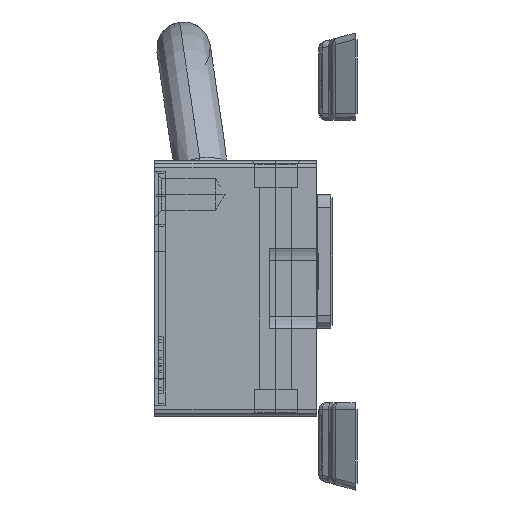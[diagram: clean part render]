
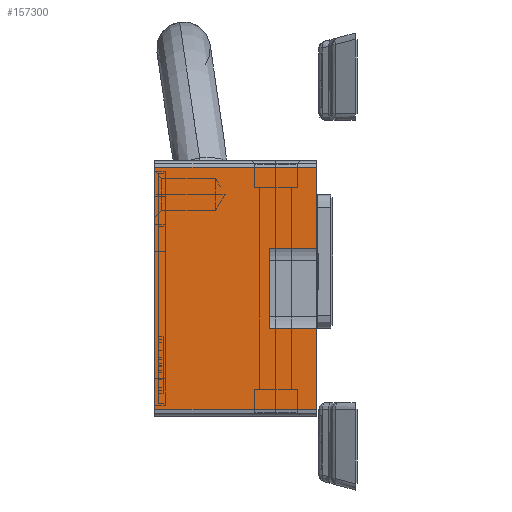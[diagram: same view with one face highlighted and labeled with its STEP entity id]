
A CAD part, left-side view. The second image highlights one B-rep face of the part: STEP entity #157300.
In plain terms, the highlighted planar face has unit normal (-1, 0, 0).
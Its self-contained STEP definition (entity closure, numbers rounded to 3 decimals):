
#151210=CARTESIAN_POINT('',(-46.,18.3,-12.));
#151220=VERTEX_POINT('',#151210);
#151250=CARTESIAN_POINT('',(-46.,0.3,-12.));
#151260=DIRECTION('',(0.,1.,0.));
#151270=VECTOR('',#151260,1.);
#151280=LINE('',#151250,#151270);
#151290=CARTESIAN_POINT('',(-46.,0.3,-12.));
#151300=VERTEX_POINT('',#151290);
#151310=EDGE_CURVE('',#151300,#151220,#151280,.T.);
#154970=CARTESIAN_POINT('',(-46.,18.3,0.)
);
#154980=VERTEX_POINT('',#154970);
#156390=CARTESIAN_POINT('',(-46.,0.3,0.)
);
#156400=VERTEX_POINT('',#156390);
#156430=CARTESIAN_POINT('',(-46.,0.3,0.)
);
#156440=DIRECTION('',(0.,1.,0.));
#156450=VECTOR('',#156440,1.);
#156460=LINE('',#156430,#156450);
#156470=CARTESIAN_POINT('',(-46.,6.328,0.))
;
#156480=VERTEX_POINT('',#156470);
#156490=EDGE_CURVE('',#156400,#156480,#156460,.T.);
#156730=CARTESIAN_POINT('',(-46.,12.272,0.))
;
#156740=VERTEX_POINT('',#156730);
#156770=CARTESIAN_POINT('',(-46.,12.272,0.))
;
#156780=DIRECTION('',(0.,1.,0.));
#156790=VECTOR('',#156780,1.);
#156800=LINE('',#156770,#156790);
#156810=EDGE_CURVE('',#156740,#154980,#156800,.T.);
#156860=CARTESIAN_POINT('',(-46.,17.8,-6.));
#156870=DIRECTION('',(-1.,0.,0.));
#156880=DIRECTION('',(0.,-1.,0.));
#156890=AXIS2_PLACEMENT_3D('',#156860,#156870,#156880);
#156900=PLANE('',#156890);
#156910=CARTESIAN_POINT('',(-46.,12.272,0.)
);
#156920=DIRECTION('',(0.,0.,-1.));
#156930=VECTOR('',#156920,1.);
#156940=LINE('',#156910,#156930);
#156950=CARTESIAN_POINT('',(-46.,12.272,-3.5));
#156960=VERTEX_POINT('',#156950);
#156970=EDGE_CURVE('',#156740,#156960,#156940,.T.);
#156980=ORIENTED_EDGE('',*,*,#156970,.F.);
#156990=CARTESIAN_POINT('',(-46.,12.272,-3.5));
#157000=DIRECTION('',(0.,-1.,0.));
#157010=VECTOR('',#157000,1.);
#157020=LINE('',#156990,#157010);
#157030=CARTESIAN_POINT('',(-46.,6.328,-3.5));
#157040=VERTEX_POINT('',#157030);
#157050=EDGE_CURVE('',#156960,#157040,#157020,.T.);
#157060=ORIENTED_EDGE('',*,*,#157050,.F.);
#157070=CARTESIAN_POINT('',(-46.,6.328,-3.5));
#157080=DIRECTION('',(0.,0.,1.));
#157090=VECTOR('',#157080,1.);
#157100=LINE('',#157070,#157090);
#157110=EDGE_CURVE('',#157040,#156480,#157100,.T.);
#157120=ORIENTED_EDGE('',*,*,#157110,.F.);
#157130=ORIENTED_EDGE('',*,*,#156490,.T.);
#157140=CARTESIAN_POINT('',(-46.,0.3,0.)
);
#157150=DIRECTION('',(0.,0.,-1.));
#157160=VECTOR('',#157150,1.);
#157170=LINE('',#157140,#157160);
#157180=EDGE_CURVE('',#156400,#151300,#157170,.T.);
#157190=ORIENTED_EDGE('',*,*,#157180,.F.);
#157200=ORIENTED_EDGE('',*,*,#151310,.F.);
#157210=CARTESIAN_POINT('',(-46.,18.3,-12.));
#157220=DIRECTION('',(0.,0.,1.));
#157230=VECTOR('',#157220,1.);
#157240=LINE('',#157210,#157230);
#157250=EDGE_CURVE('',#151220,#154980,#157240,.T.);
#157260=ORIENTED_EDGE('',*,*,#157250,.F.);
#157270=ORIENTED_EDGE('',*,*,#156810,.T.);
#157280=EDGE_LOOP('',(#157270,#157260,#157200,#157190,#157130,#157120,
#157060,#156980));
#157290=FACE_OUTER_BOUND('',#157280,.T.);
#157300=ADVANCED_FACE('',(#157290),#156900,.T.);
